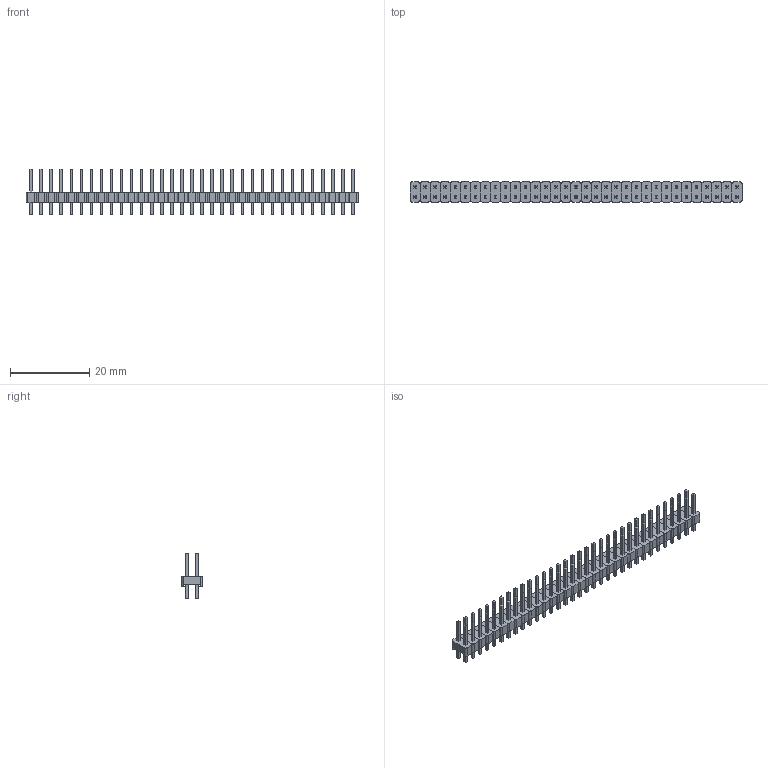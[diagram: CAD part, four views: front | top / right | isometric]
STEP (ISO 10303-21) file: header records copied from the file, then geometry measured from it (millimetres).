
FILE_DESCRIPTION(('FreeCAD Model'),'2;1');
FILE_NAME('Open CASCADE Shape Model','2022-04-06T16:09:48',( 'Engenharia Metaltex'),('Metaltex'), 'Open CASCADE STEP processor 7.5','FreeCAD','Unknown');
FILE_SCHEMA(('AUTOMOTIVE_DESIGN { 1 0 10303 214 1 1 1 1 }'));
Length unit declared in the file: millimetre
Products named in the file (133): BPDC; 33; Base032; Pino066; Pino065; 1; Base; Pino1; Pino2; 2; Base001; Pino003; Pino004; 3; Base002; Pino006; Pino005; 4; Base003; Pino008; Pino007; 5; Base004; Pino009; Pino010; 6; Base005; Pino012; Pino011; 7; Base006; Pino013; Pino014; 8; Base007; Pino015; Pino016; 9; Base008; Pino017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
Assembly tree (132 placements, depth 3):
  BPDC
    33
      Base032
      Pino066
      Pino065
    1
      Base
      Pino1
      Pino2
    2
      Base001
      Pino003
      Pino004
    3
      Base002
      Pino006
      Pino005
    4
      Base003
      Pino008
      Pino007
    5
      Base004
      Pino009
      Pino010
    6
      Base005
      Pino012
      Pino011
    7
      Base006
      Pino013
      Pino014
    8
      Base007
      Pino015
      Pino016
    9
      Base008
      Pino017
      Pino018
    10
      Base009
      Pino019
      Pino020
    11
      Base010
      Pino021
      Pino022
    12
      Base011
      Pino023
      Pino024
    13
      Base012
      Pino025
      Pino026
    14
      Base013
      Pino027
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Bounding box: 83.82 x 5.08 x 11.54 mm (x, y, z)
Volume: 1152.4 mm3; surface area: 4244.8 mm2
Topology: 99 solids, 99 shells, 1650 faces, 3828 edges, 2376 vertices
Faces by surface type: plane 1518, cylinder 132
Entity records: 99019 total; most frequent: CARTESIAN_POINT 16435, DIRECTION 15182, LINE 10956, VECTOR 10956, ORIENTED_EDGE 7656, PCURVE 7656, DEFINITIONAL_REPRESENTATION 7656, EDGE_CURVE 3828
